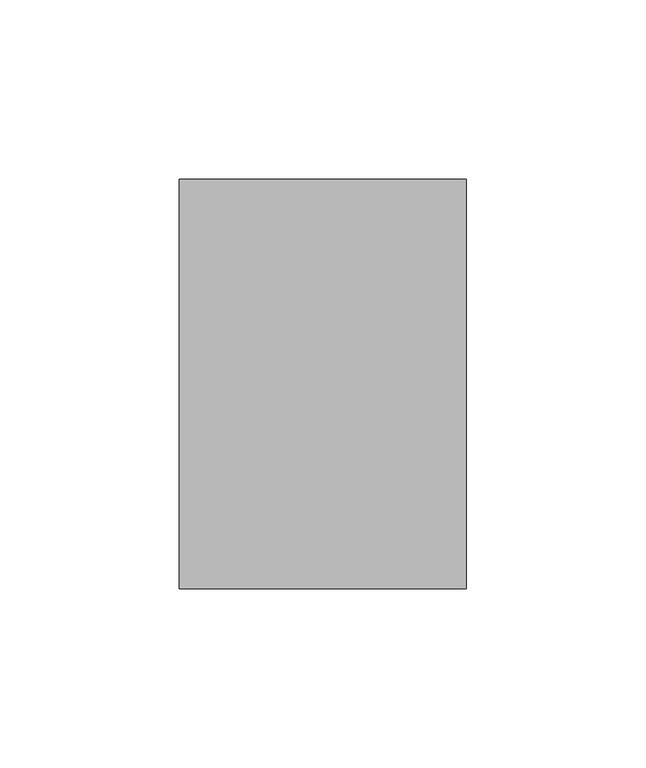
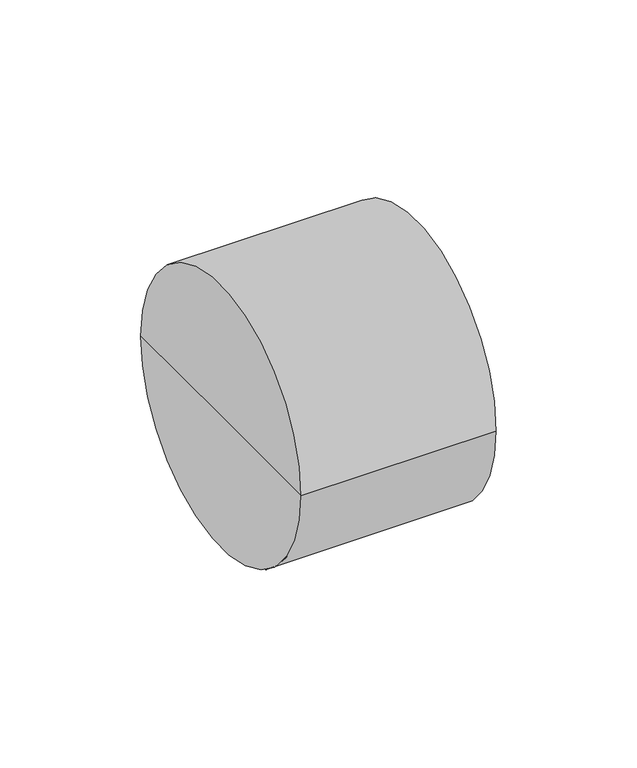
"""IFC4 building model written with IfcOpenShell, lengths in millimetres: cable carrier fitting geometry, Муфта_соединительная_для_двустенной_трубы : Муфта соединительная для двухстенной трубы D110мм."""

from ifc_helpers import new_model, si_unit, frame, origin, place, context, project, spatial, circle_curve, source, transform, mapped, element, save
from ifc_brep_helpers import plane_surface, cylinder_surface, advanced_brep


def cable_carrier_fitting_cd123b29(model_context):
    return source(origin(), model_context, "Body", "AdvancedBrep", [
        advanced_brep(
        [(-40.0, -57.0, 0.0), (-40.0, 57.0, 0.0), (40.0, 57.0, 0.0), (40.0, -57.0, 0.0), (-40.0, 0.0, 0.0), (40.0, 0.0, 0.0)],
        [
            (0, 1, circle_curve(frame((-40.0, 0.0, 0.0), z_axis=(1.0, 0.0, 0.0), x_axis=(0.0, 1.0, 0.0)), 57.0)),
            (1, 2),
            (2, 3, circle_curve(frame((40.0, 0.0, 0.0), z_axis=(-1.0, 0.0, 0.0), x_axis=(0.0, 1.0, 0.0)), 57.0)),
            (3, 0),
            (1, 0, circle_curve(frame((-40.0, 0.0, 0.0), z_axis=(1.0, 0.0, 0.0), x_axis=(0.0, 1.0, 0.0)), 57.0)),
            (3, 2, circle_curve(frame((40.0, 0.0, 0.0), z_axis=(-1.0, 0.0, 0.0), x_axis=(0.0, 1.0, 0.0)), 57.0)),
            (4, 1),
            (0, 4),
            (2, 5),
            (5, 3),
        ],
        [
            cylinder_surface(frame((1965.0, 0.0, 0.0), z_axis=(-1.0, 0.0, 0.0), x_axis=(0.0, 1.0, 0.0)), 57.0),
            plane_surface(frame((-40.0, 0.0, 0.0), z_axis=(-1.0, 0.0, 0.0), x_axis=(0.0, 1.0, 0.0))),
            plane_surface(frame((40.0, 0.0, 0.0), z_axis=(1.0, 0.0, 0.0), x_axis=(0.0, 1.0, 0.0))),
        ],
        [
            (0, [[1, 2, 3, 4]]),
            (0, [[5, -4, 6, -2]]),
            (1, [[7, -1, 8]]),
            (1, [[-8, -5, -7]]),
            (2, [[-3, 9, 10]]),
            (2, [[-6, -10, -9]]),
        ],
    ),
    ])


if __name__ == "__main__":
    model = new_model("IFC4")
    model_context = context("Model", 3, world=origin())
    ifc_project = project(units=[si_unit("LENGTHUNIT", "METRE", prefix="MILLI")], contexts=[model_context])
    site = spatial("IfcSite", under=ifc_project)
    building = spatial("IfcBuilding", under=site)
    placement = place(None, origin())
    cable_carrier_fitting_shape = cable_carrier_fitting_cd123b29(model_context)
    element("IfcCableCarrierFitting", 1, ObjectType="Муфта_соединительная_для_двустенной_трубы : Муфта соединительная для двухстенной трубы D110мм", at=placement, inside=building, context=model_context, shape_type="MappedRepresentation", body=[
        mapped(cable_carrier_fitting_shape, transform((0.0, 0.0, 0.0), x_axis=(1.0, 0.0, 0.0), y_axis=(0.0, 1.0, 0.0), z_axis=(0.0, 0.0, 1.0))),
    ])
    save(model, "model.ifc")
